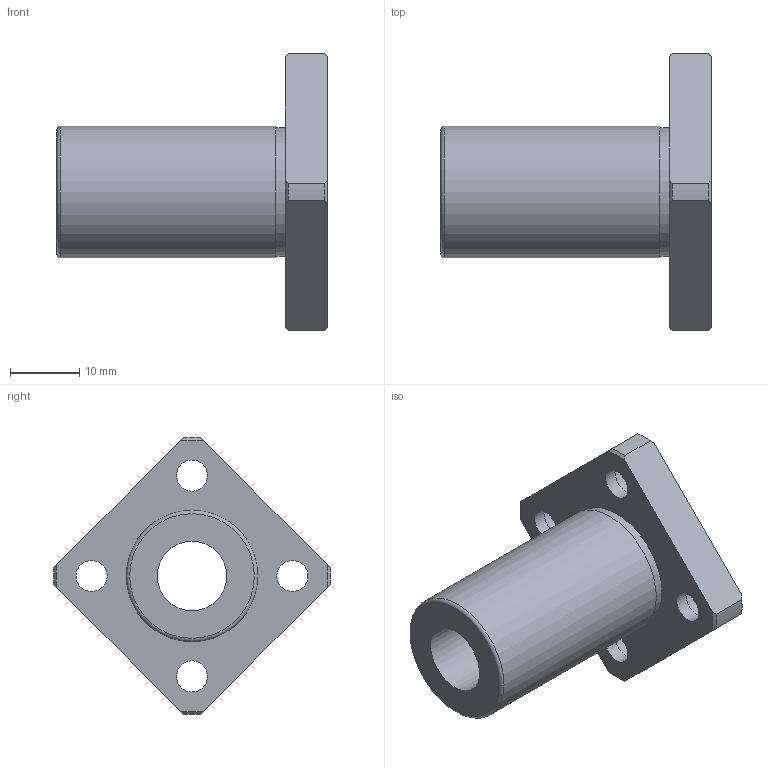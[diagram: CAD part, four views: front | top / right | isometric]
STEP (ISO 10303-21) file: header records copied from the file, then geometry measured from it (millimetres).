
FILE_DESCRIPTION(('STEP AP203'),'1');
FILE_NAME('//192.168.1.1/share/s-4 技術開発/s-4-4_CAD/s-4-4-3_見直し済み/002 修正済み/NFES-VM(済)/NFES-VM_TOP/NFES-10VM.step','2022-03-08T01:18:13',(' '),(' '),'Spatial InterOp 3D',' ',' ');
FILE_SCHEMA(('CONFIG_CONTROL_DESIGN'));
Length unit declared in the file: millimetre
Products named in the file (1): 1
Bounding box: 39 x 39.99 x 39.99 mm (x, y, z)
Volume: 10786.3 mm3; surface area: 5895.9 mm2
Topology: 1 solids, 1 shells, 36 faces, 91 edges, 63 vertices
Faces by surface type: cylinder 15, plane 12, cone 8, torus 1
Full cylindrical faces by diameter (mm): 4.5 x4, 7.5 x4, 10 x1, 18.5 x1, 19 x1
Entity records: 1026 total; most frequent: CARTESIAN_POINT 195, DIRECTION 168, ORIENTED_EDGE 142, AXIS2_PLACEMENT_3D 76, EDGE_CURVE 71, EDGE_LOOP 64, VERTEX_POINT 55, FACE_OUTER_BOUND 48
